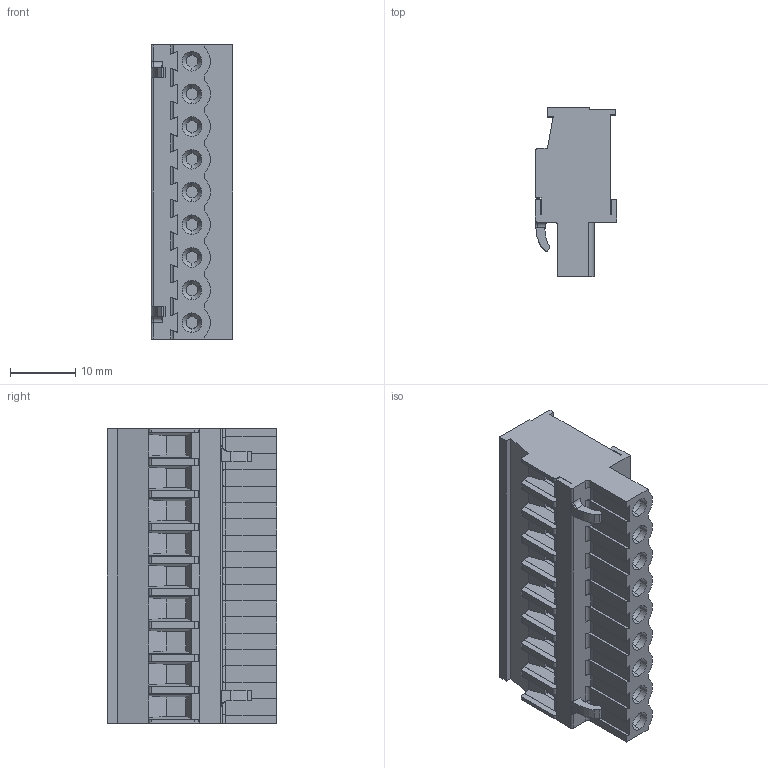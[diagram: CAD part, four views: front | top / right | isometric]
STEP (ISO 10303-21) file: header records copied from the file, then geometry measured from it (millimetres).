
FILE_DESCRIPTION (( 'STEP AP214' ), '1' );
FILE_NAME ('120-D-121-09.STEP', '2007-09-20T03:56:15', ( ' ' ), ( '' ), 'SwSTEP 2.0', 'SolidWorks 2007', '' );
FILE_SCHEMA (( 'AUTOMOTIVE_DESIGN' ));
Length unit declared in the file: millimetre
Products named in the file (1): 120-D-121-09
Bounding box: 12.5 x 25.9 x 45 mm (x, y, z)
Volume: 9491.4 mm3; surface area: 5757.1 mm2
Topology: 1 solids, 1 shells, 442 faces, 1156 edges, 734 vertices
Faces by surface type: plane 282, cylinder 122, cone 36, torus 2
Entity records: 13463 total; most frequent: CARTESIAN_POINT 2417, ORIENTED_EDGE 2312, DIRECTION 2302, EDGE_CURVE 1156, LINE 848, VECTOR 848, VERTEX_POINT 734, AXIS2_PLACEMENT_3D 727
